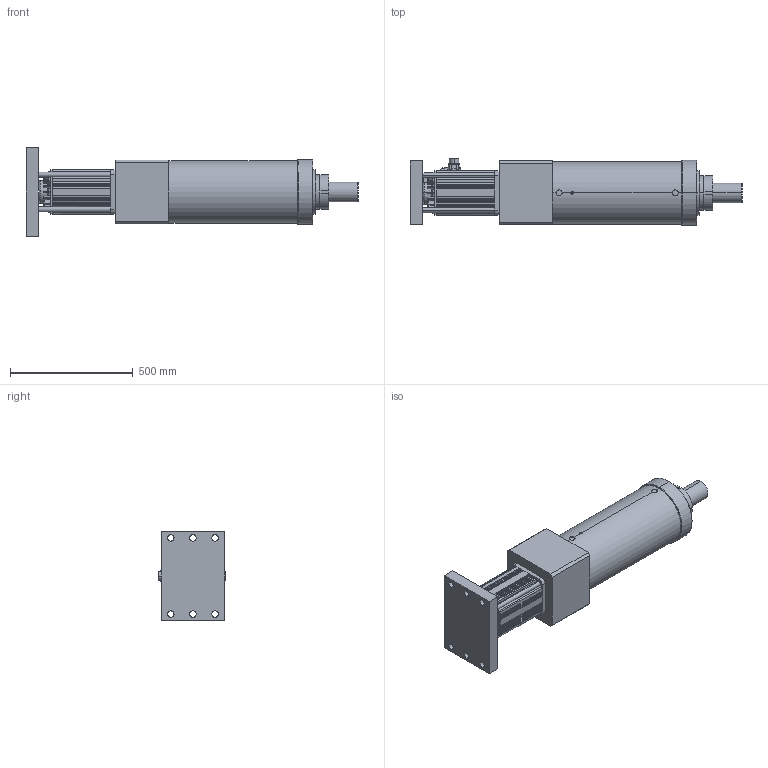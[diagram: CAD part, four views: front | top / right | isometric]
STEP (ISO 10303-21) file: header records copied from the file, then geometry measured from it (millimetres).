
FILE_DESCRIPTION (( 'STEP AP203' ), '1' );
FILE_NAME ('S9眻盄綴楊擘假蚾.STEP', '2024-05-27T05:44:56', ( '' ), ( '' ), 'SwSTEP 2.0', 'SolidWorks 2018', '' );
FILE_SCHEMA (( 'CONFIG_CONTROL_DESIGN' ));
Length unit declared in the file: millimetre
Products named in the file (3): S9眻盄綴楊擘假蚾; ECMA-LX1855S3-180框號系列機種-5.5KW-400V高慣量系列; S9眻盄綴楊擘
Assembly tree (2 placements, depth 2):
  S9眻盄綴楊擘假蚾
    S9眻盄綴楊擘
    ECMA-LX1855S3-180框號系列機種-5.5KW-400V高慣量系列
Bounding box: 1353 x 272.52 x 360 mm (x, y, z)
Volume: 58579509.9 mm3; surface area: 1681919.6 mm2
Topology: 2 solids, 4 shells, 750 faces, 1754 edges, 1079 vertices
Faces by surface type: plane 369, cylinder 276, cone 54, bspline 31, torus 20
Entity records: 24109 total; most frequent: CARTESIAN_POINT 6872, ORIENTED_EDGE 3504, DIRECTION 3474, EDGE_CURVE 1752, AXIS2_PLACEMENT_3D 1253, VERTEX_POINT 1079, VECTOR 968, LINE 968
